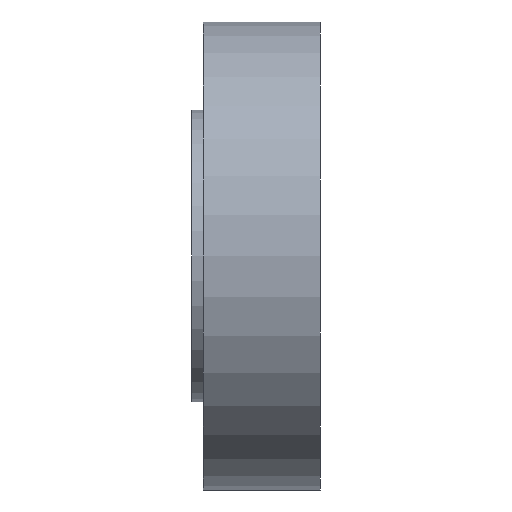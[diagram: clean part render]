
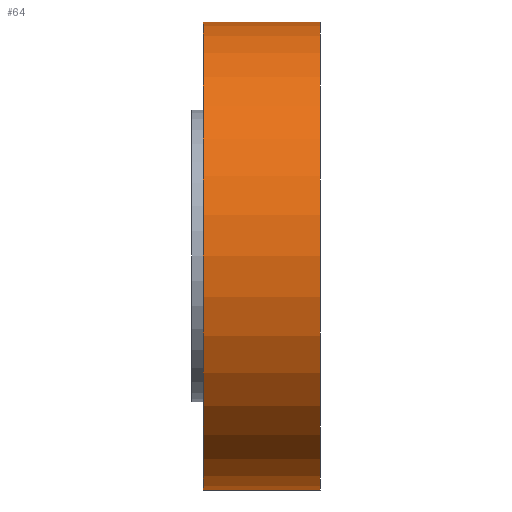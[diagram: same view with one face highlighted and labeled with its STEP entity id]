
A CAD part, front view. The second image highlights one B-rep face of the part: STEP entity #64.
In plain terms, the highlighted cylindrical face has radius 40 mm (diameter 80 mm), a partial arc.
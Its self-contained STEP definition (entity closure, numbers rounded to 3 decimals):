
#22 = VERTEX_POINT ( 'NONE', #285 ) ;
#24 = VERTEX_POINT ( 'NONE', #444 ) ;
#27 = EDGE_CURVE ( 'NONE', #22, #24, #284, .T. ) ;
#31 = VERTEX_POINT ( 'NONE', #330 ) ;
#34 = EDGE_CURVE ( 'NONE', #42, #31, #419, .T. ) ;
#42 = VERTEX_POINT ( 'NONE', #309 ) ;
#61 = EDGE_LOOP ( 'NONE', ( #67, #69, #66, #148 ) ) ;
#64 = ADVANCED_FACE ( 'NONE', ( #290 ), #308, .T. ) ;
#66 = ORIENTED_EDGE ( 'NONE', *, *, #34, .T. ) ;
#67 = ORIENTED_EDGE ( 'NONE', *, *, #27, .F. ) ;
#69 = ORIENTED_EDGE ( 'NONE', *, *, #202, .T. ) ;
#147 = EDGE_CURVE ( 'NONE', #24, #31, #531, .T. ) ;
#148 = ORIENTED_EDGE ( 'NONE', *, *, #147, .F. ) ;
#202 = EDGE_CURVE ( 'NONE', #22, #42, #480, .T. ) ;
#278 = DIRECTION ( 'NONE',  ( -1., 0., 0. ) ) ;
#279 = VECTOR ( 'NONE', #278, 1000. ) ;
#280 = CARTESIAN_POINT ( 'NONE',  ( 0., 0., -40. ) ) ;
#284 = LINE ( 'NONE', #280, #279 ) ;
#285 = CARTESIAN_POINT ( 'NONE',  ( 22., 0., -40. ) ) ;
#286 = DIRECTION ( 'NONE',  ( 0., 0., 1. ) ) ;
#287 = DIRECTION ( 'NONE',  ( -1., 0., 0. ) ) ;
#290 = FACE_OUTER_BOUND ( 'NONE', #61, .T. ) ;
#291 = CARTESIAN_POINT ( 'NONE',  ( 0., 0., 0. ) ) ;
#292 = AXIS2_PLACEMENT_3D ( 'NONE', #291, #287, #286 ) ;
#308 = CYLINDRICAL_SURFACE ( 'NONE', #292, 40. ) ;
#309 = CARTESIAN_POINT ( 'NONE',  ( 22., 0., 40. ) ) ;
#330 = CARTESIAN_POINT ( 'NONE',  ( 2., 0., 40. ) ) ;
#416 = DIRECTION ( 'NONE',  ( -1., 0., 0. ) ) ;
#417 = VECTOR ( 'NONE', #416, 1000. ) ;
#418 = CARTESIAN_POINT ( 'NONE',  ( 0., 0., 40. ) ) ;
#419 = LINE ( 'NONE', #418, #417 ) ;
#444 = CARTESIAN_POINT ( 'NONE',  ( 2., 0., -40. ) ) ;
#469 = DIRECTION ( 'NONE',  ( 0., 0., 1. ) ) ;
#470 = DIRECTION ( 'NONE',  ( -1., 0., 0. ) ) ;
#474 = CARTESIAN_POINT ( 'NONE',  ( 22., 0., 0. ) ) ;
#475 = AXIS2_PLACEMENT_3D ( 'NONE', #474, #470, #469 ) ;
#480 = CIRCLE ( 'NONE', #475, 40. ) ;
#524 = DIRECTION ( 'NONE',  ( 0., 0., 1. ) ) ;
#525 = AXIS2_PLACEMENT_3D ( 'NONE', #534, #629, #524 ) ;
#531 = CIRCLE ( 'NONE', #525, 40. ) ;
#534 = CARTESIAN_POINT ( 'NONE',  ( 2., 0., 0. ) ) ;
#629 = DIRECTION ( 'NONE',  ( -1., 0., 0. ) ) ;
